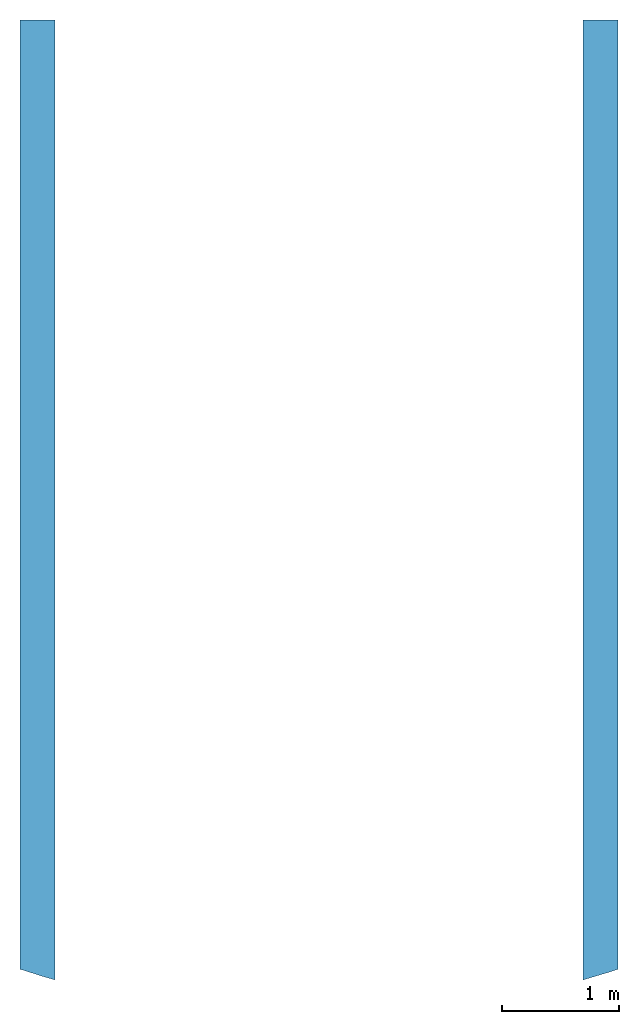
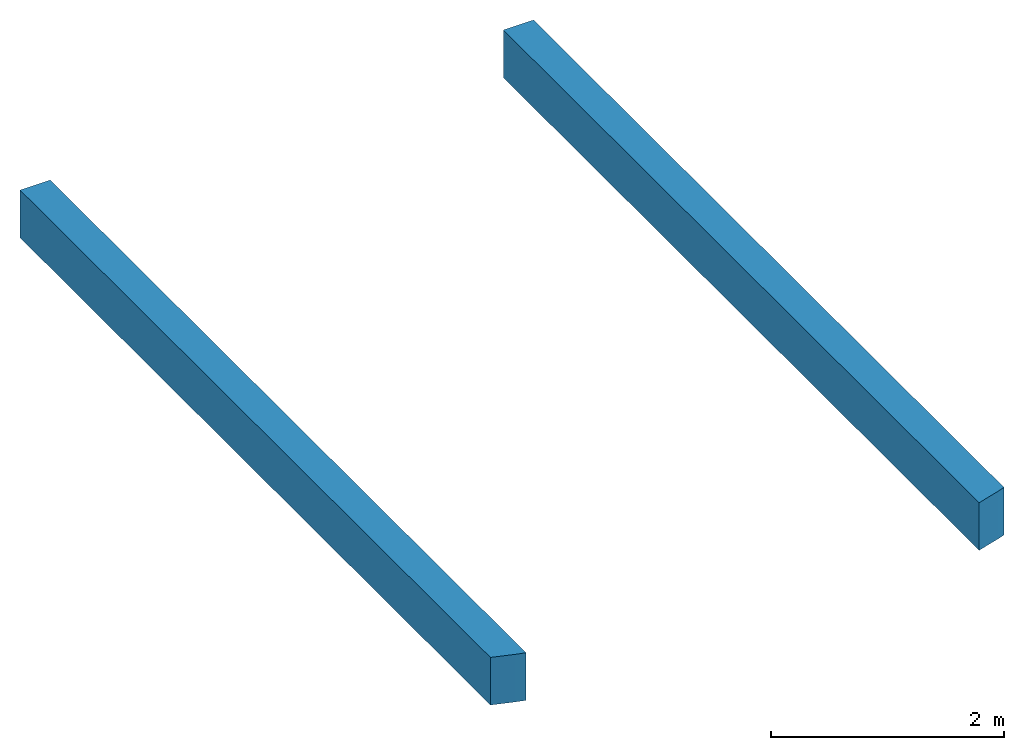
# One storey: 2 beams.
"""IFC4 building model written with IfcOpenShell, lengths in millimetres."""

from ifc_helpers import new_model, entity, si_unit, converted_unit, derived_unit, direction, frame, frame_2d, origin_with_axes, place, context, subcontext, project, spatial, rectangle, extrude, boolean, polygons, material, type_object, element, save


model = new_model("IFC4")

# Units and contexts
model_context = context("Model", 3, precision=0.01, world=origin_with_axes(), true_north=direction((0.0, 1.0)))
body_context = subcontext(model_context, "Body", "Model", "MODEL_VIEW")
ifc_project = project(units=[si_unit("LENGTHUNIT", "METRE", prefix="MILLI"), si_unit("AREAUNIT", "SQUARE_METRE"), si_unit("VOLUMEUNIT", "CUBIC_METRE"), converted_unit("PLANEANGLEUNIT", "DEGREE", entity("IfcPlaneAngleMeasure", 0.0174532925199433), si_unit("PLANEANGLEUNIT", "RADIAN"), dimensions=[0, 0, 0, 0, 0, 0, 0]), converted_unit("TIMEUNIT", "Year", entity("IfcTimeMeasure", 31557600.0), si_unit("TIMEUNIT", "SECOND"), dimensions=[0, 0, 1, 0, 0, 0, 0]), si_unit("MASSUNIT", "GRAM", prefix="KILO"), si_unit("THERMODYNAMICTEMPERATUREUNIT", "DEGREE_CELSIUS"), si_unit("LUMINOUSINTENSITYUNIT", "LUMEN"), si_unit("ENERGYUNIT", "JOULE", prefix="MEGA"), derived_unit("THERMALCONDUCTANCEUNIT", [(si_unit("POWERUNIT", "WATT"), 1), (si_unit("LENGTHUNIT", "METRE"), -1), (si_unit("THERMODYNAMICTEMPERATUREUNIT", "KELVIN"), -1)]), derived_unit("SPECIFICHEATCAPACITYUNIT", [(si_unit("ENERGYUNIT", "JOULE"), 1), (si_unit("MASSUNIT", "GRAM", prefix="KILO"), -1), (si_unit("THERMODYNAMICTEMPERATUREUNIT", "KELVIN"), -1)]), derived_unit("MASSDENSITYUNIT", [(si_unit("MASSUNIT", "GRAM", prefix="KILO"), 1), (si_unit("VOLUMEUNIT", "CUBIC_METRE"), -1)])], contexts=[model_context])

# Site, building, storey
site_placement = place(None, origin_with_axes())
site = spatial("IfcSite", under=ifc_project, at=site_placement, Name="Exteriér", CompositionType="ELEMENT")
building_placement = place(site_placement, origin_with_axes())
building = spatial("IfcBuilding", under=site, at=building_placement, Name="Univerzitní lezecké centrum", CompositionType="ELEMENT")
storey_placement = place(building_placement, frame((0.0, 0.0, 6400.0), z_axis=(0.0, 0.0, 1.0), x_axis=(1.0, 0.0, 0.0)))
storey = spatial("IfcBuildingStorey", under=building, at=storey_placement, Name="3.NP", CompositionType="ELEMENT", Elevation=6400.0)

# Beams
ifc_material = material(Name="Beton vyztužený průvlak boulderu")
beam_type = type_object("IfcBeamType", Name="Beton vyztužený průvlak boulderu 300 x 500", PredefinedType="BEAM")
beam_1_placement = place(storey_placement, frame((49.77785508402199, -2.296845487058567e-05, 2680.000000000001), z_axis=(0.0, 0.0, 1.0), x_axis=(-0.9999999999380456, -1.113144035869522e-05, 0.0)))
element("IfcBeam", 1, at=beam_1_placement, inside=storey, type_object=beam_type, material=ifc_material, Name="T017", PredefinedType="BEAM", context=body_context, shape_type="CSG", body=[
    boolean("DIFFERENCE", extrude(rectangle(XDim=500.0, YDim=300.0, at=frame_2d((-250.0, 0.0), x_axis=(1.0, 0.0))), frame((0.0, 0.0, 0.0), z_axis=(0.0, 1.0, 0.0), x_axis=(0.0, 0.0, 1.0)), (0.0, 0.0, 1.0), 8185.820327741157), polygons([(-149.9999999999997, 8185.426643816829, -500.0), (-149.9999999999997, 8185.426643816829, 0.0), (-150.0, 8185.820327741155, 0.0), (-150.0, 8185.820327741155, -500.0), (-58.05038794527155, 8159.77594071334, 0.0), (-58.05038794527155, 8159.77594071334, -500.0), (149.9999999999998, 8093.784851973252, 0.0), (150.0, 8185.820327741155, 0.0), (150.0, 8185.820327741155, -500.0), (149.9999999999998, 8093.784851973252, -500.0)], [[[1, 2, 3, 4]], [[5, 2, 1, 6]], [[5, 7, 8, 3, 2]], [[4, 3, 8, 9]], [[6, 1, 4, 9, 10]], [[7, 5, 6, 10]], [[7, 10, 9, 8]]], closed=True)),
])
beam_2_placement = place(storey_placement, frame((4849.951161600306, -2.296847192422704e-05, 2680.000000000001), z_axis=(0.0, 0.0, 1.0), x_axis=(-1.0, 0.0, 0.0)))
element("IfcBeam", 2, at=beam_2_placement, inside=storey, type_object=beam_type, material=ifc_material, Name="T016", PredefinedType="BEAM", context=body_context, shape_type="CSG", body=[
    boolean("DIFFERENCE", extrude(rectangle(XDim=500.0, YDim=300.0, at=frame_2d((-250.0, 0.0), x_axis=(1.0, 0.0))), frame((0.0, 0.0, 0.0), z_axis=(0.0, 1.0, 0.0), x_axis=(0.0, 0.0, 1.0)), (0.0, 0.0, 1.0), 8185.820327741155), polygons([(-150.0000000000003, 8093.703577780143, -500.0), (-150.0000000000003, 8093.703577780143, 0.0), (-150.0000000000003, 8185.820327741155, 0.0), (-150.0000000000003, 8185.820327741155, -500.0), (-79.41061784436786, 8117.464126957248, 0.0), (-79.41061784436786, 8117.464126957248, -500.0), (149.9999999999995, 8185.820327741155, 0.0), (149.9999999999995, 8185.820327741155, -500.0)], [[[1, 2, 3, 4]], [[5, 2, 1, 6]], [[5, 7, 3, 2]], [[7, 8, 4, 3]], [[6, 1, 4, 8]], [[7, 5, 6, 8]]], closed=True)),
])

save(model, "model.ifc")
